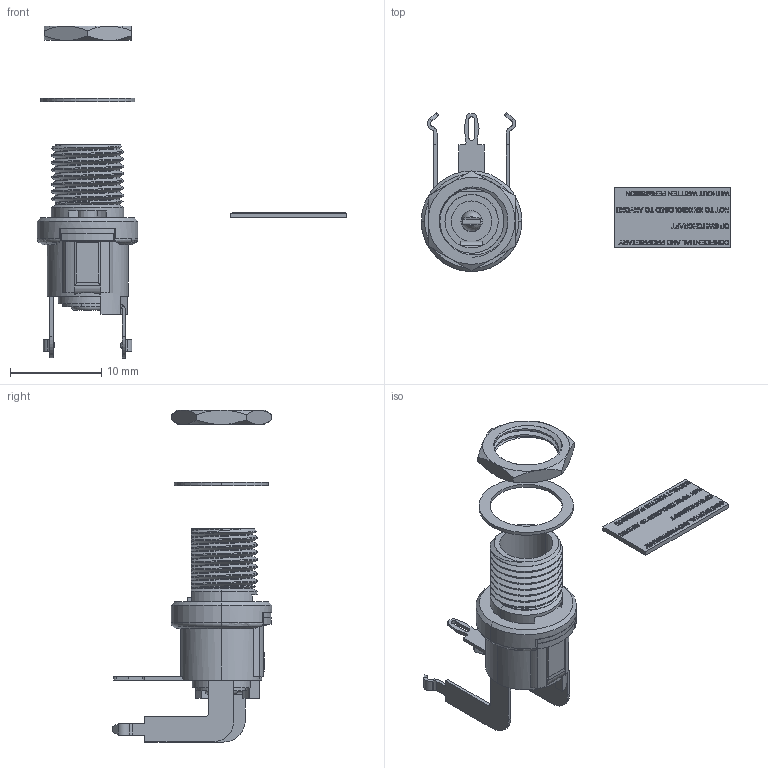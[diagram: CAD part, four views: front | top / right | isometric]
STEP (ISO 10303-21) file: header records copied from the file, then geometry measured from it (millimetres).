
FILE_DESCRIPTION (( 'STEP AP214' ), '1' );
FILE_NAME ('L722RA.STEP', '2009-11-03T16:30:34', ( ' ' ), ( ' ' ), 'SwSTEP 2.0', 'SolidWorks 2008', '' );
FILE_SCHEMA (( 'AUTOMOTIVE_DESIGN' ));
Products named in the file (1): L722RA
Bounding box: 33.9 x 17.45 x 36.37 mm (x, y, z)
Volume: 844.1 mm3; surface area: 1820.8 mm2
Topology: 4 solids, 4 shells, 1377 faces, 3708 edges, 2461 vertices
Faces by surface type: plane 854, bspline 349, cylinder 131, cone 34, torus 9
Entity records: 67471 total; most frequent: CARTESIAN_POINT 35524, ORIENTED_EDGE 7416, DIRECTION 5097, EDGE_CURVE 3708, VECTOR 2595, LINE 2595, VERTEX_POINT 2461, EDGE_LOOP 1511
